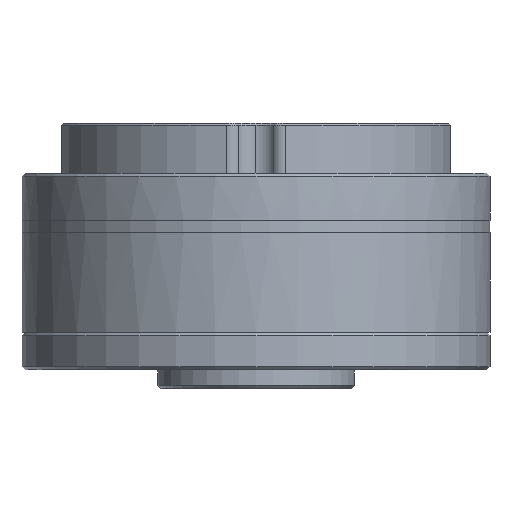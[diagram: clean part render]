
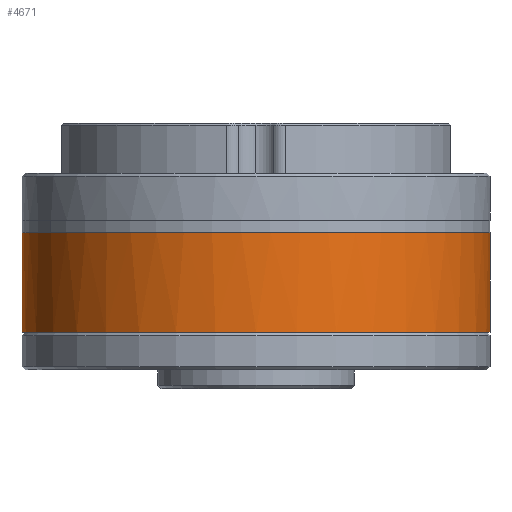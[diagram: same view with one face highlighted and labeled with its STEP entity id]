
A CAD part, front view. The second image highlights one B-rep face of the part: STEP entity #4671.
In plain terms, the highlighted cylindrical face has radius 37.5 mm (diameter 75 mm), a partial arc.
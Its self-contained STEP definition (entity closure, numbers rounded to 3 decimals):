
#4278=AXIS2_PLACEMENT_3D('Circle Axis2P3D',#4276,#4277,$) ;
#4628=AXIS2_PLACEMENT_3D('Cylinder Axis2P3D',#4625,#4626,#4627) ;
#4662=AXIS2_PLACEMENT_3D('Circle Axis2P3D',#4660,#4661,$) ;
#4276=CARTESIAN_POINT('Axis2P3D Location',(0.,0.,18.)) ;
#4280=CARTESIAN_POINT('Vertex',(-37.5,0.,18.)) ;
#4282=CARTESIAN_POINT('Vertex',(37.5,0.,18.)) ;
#4625=CARTESIAN_POINT('Axis2P3D Location',(0.,0.,26.)) ;
#4630=CARTESIAN_POINT('Line Origine',(37.5,0.,26.)) ;
#4634=CARTESIAN_POINT('Vertex',(37.5,0.,34.)) ;
#4637=CARTESIAN_POINT('Line Origine',(-37.5,0.,26.)) ;
#4641=CARTESIAN_POINT('Vertex',(-37.5,0.,34.)) ;
#4660=CARTESIAN_POINT('Axis2P3D Location',(0.,0.,34.)) ;
#4277=DIRECTION('Axis2P3D Direction',(-0.,0.,1.)) ;
#4626=DIRECTION('Axis2P3D Direction',(-0.,0.,1.)) ;
#4627=DIRECTION('Axis2P3D XDirection',(1.,0.,0.)) ;
#4631=DIRECTION('Vector Direction',(0.,0.,1.)) ;
#4638=DIRECTION('Vector Direction',(0.,0.,1.)) ;
#4661=DIRECTION('Axis2P3D Direction',(-0.,0.,1.)) ;
#4632=VECTOR('Line Direction',#4631,1.) ;
#4639=VECTOR('Line Direction',#4638,1.) ;
#4666=ORIENTED_EDGE('',*,*,#4643,.F.) ;
#4667=ORIENTED_EDGE('',*,*,#4284,.T.) ;
#4668=ORIENTED_EDGE('',*,*,#4636,.T.) ;
#4669=ORIENTED_EDGE('',*,*,#4664,.F.) ;
#4671=ADVANCED_FACE('\X2\96F64EF651E04F554F53\X0\',(#4670),#4629,.T.) ;
#4279=CIRCLE('generated circle',#4278,37.5) ;
#4663=CIRCLE('generated circle',#4662,37.5) ;
#4629=CYLINDRICAL_SURFACE('generated cylinder',#4628,37.5) ;
#4284=EDGE_CURVE('',#4281,#4283,#4279,.T.) ;
#4636=EDGE_CURVE('',#4283,#4635,#4633,.T.) ;
#4643=EDGE_CURVE('',#4281,#4642,#4640,.T.) ;
#4664=EDGE_CURVE('',#4642,#4635,#4663,.T.) ;
#4665=EDGE_LOOP('',(#4666,#4667,#4668,#4669)) ;
#4670=FACE_OUTER_BOUND('',#4665,.T.) ;
#4633=LINE('Line',#4630,#4632) ;
#4640=LINE('Line',#4637,#4639) ;
#4281=VERTEX_POINT('',#4280) ;
#4283=VERTEX_POINT('',#4282) ;
#4635=VERTEX_POINT('',#4634) ;
#4642=VERTEX_POINT('',#4641) ;
